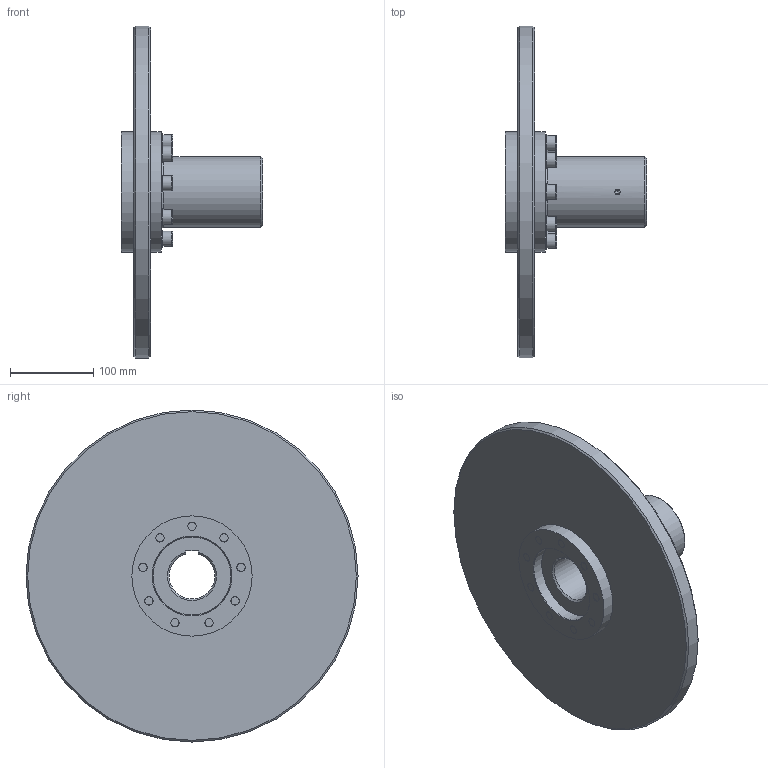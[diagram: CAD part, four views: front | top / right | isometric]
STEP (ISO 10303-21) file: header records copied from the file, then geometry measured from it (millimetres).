
FILE_DESCRIPTION(/* description */ (''),/* implementation_level */ '2;1');
FILE_NAME(/* name */ 'C:\Users\milman01\Desktop\step file\xxxxxx\46535.stp',/* time_stamp */ '2017-03-15T12:05:41+01:00',/* author */ ('milman01'),/* organization */ ('Hillmar Industries Ltd.'),/* preprocessor_version */ 'ST-DEVELOPER v16.1',/* originating_system */ 'Autodesk Inventor 2016',/* authorisation */ '');
FILE_SCHEMA (('AUTOMOTIVE_DESIGN { 1 0 10303 214 3 1 1 }'));
Length unit declared in the file: millimetre
Products named in the file (1): 46535_Shrinkwrap_1
Bounding box: 170 x 400 x 400 mm (x, y, z)
Volume: 3206692.5 mm3; surface area: 383917.6 mm2
Topology: 1 solids, 12 shells, 222 faces, 484 edges, 316 vertices
Faces by surface type: plane 123, cylinder 56, cone 32, torus 11
Full cylindrical faces by diameter (mm): 6.647 x1, 10.106 x9, 12 x9, 13 x9, 18 x9, 20 x9, 85 x1, 95 x3, 145 x2, 400 x1
Entity records: 5471 total; most frequent: CARTESIAN_POINT 1008, DIRECTION 878, ORIENTED_EDGE 696, AXIS2_PLACEMENT_3D 371, EDGE_LOOP 370, EDGE_CURVE 348, VERTEX_POINT 274, STYLED_ITEM 223
